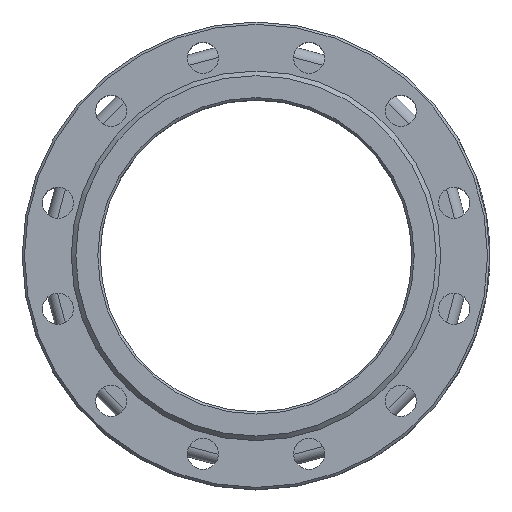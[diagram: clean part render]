
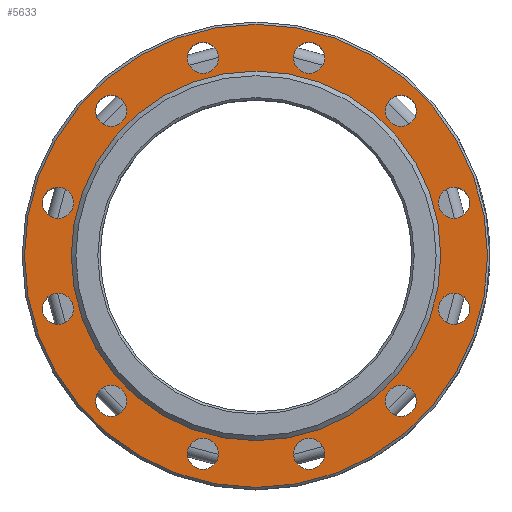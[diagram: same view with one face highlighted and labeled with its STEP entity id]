
A CAD part, top view. The second image highlights one B-rep face of the part: STEP entity #5633.
In plain terms, the highlighted planar face has unit normal (0, 0, 1).
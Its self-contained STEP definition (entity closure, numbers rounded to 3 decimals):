
#158=FACE_BOUND('',#1014,.T.);
#159=FACE_BOUND('',#1015,.T.);
#160=FACE_BOUND('',#1016,.T.);
#161=FACE_BOUND('',#1017,.T.);
#162=FACE_BOUND('',#1018,.T.);
#163=FACE_BOUND('',#1019,.T.);
#164=FACE_BOUND('',#1020,.T.);
#165=FACE_BOUND('',#1021,.T.);
#166=FACE_BOUND('',#1022,.T.);
#167=FACE_BOUND('',#1023,.T.);
#168=FACE_BOUND('',#1024,.T.);
#169=FACE_BOUND('',#1025,.T.);
#170=FACE_BOUND('',#1026,.T.);
#421=PLANE('',#6048);
#675=FACE_OUTER_BOUND('',#1013,.T.);
#1013=EDGE_LOOP('',(#4749));
#1014=EDGE_LOOP('',(#4750));
#1015=EDGE_LOOP('',(#4751));
#1016=EDGE_LOOP('',(#4752));
#1017=EDGE_LOOP('',(#4753));
#1018=EDGE_LOOP('',(#4754));
#1019=EDGE_LOOP('',(#4755));
#1020=EDGE_LOOP('',(#4756));
#1021=EDGE_LOOP('',(#4757));
#1022=EDGE_LOOP('',(#4758));
#1023=EDGE_LOOP('',(#4759));
#1024=EDGE_LOOP('',(#4760));
#1025=EDGE_LOOP('',(#4761));
#1026=EDGE_LOOP('',(#4762));
#1469=CIRCLE('',#6047,200.5);
#1470=CIRCLE('',#6049,13.5);
#1471=CIRCLE('',#6050,13.5);
#1472=CIRCLE('',#6051,13.5);
#1473=CIRCLE('',#6052,160.);
#1474=CIRCLE('',#6053,13.5);
#1475=CIRCLE('',#6054,13.5);
#1476=CIRCLE('',#6055,13.5);
#1477=CIRCLE('',#6056,13.5);
#1478=CIRCLE('',#6057,13.5);
#1479=CIRCLE('',#6058,13.5);
#1480=CIRCLE('',#6059,13.5);
#1481=CIRCLE('',#6060,13.5);
#1482=CIRCLE('',#6061,13.5);
#2637=VERTEX_POINT('',#12205);
#2638=VERTEX_POINT('',#12209);
#2639=VERTEX_POINT('',#12211);
#2640=VERTEX_POINT('',#12213);
#2641=VERTEX_POINT('',#12215);
#2642=VERTEX_POINT('',#12217);
#2643=VERTEX_POINT('',#12219);
#2644=VERTEX_POINT('',#12221);
#2645=VERTEX_POINT('',#12223);
#2646=VERTEX_POINT('',#12225);
#2647=VERTEX_POINT('',#12227);
#2648=VERTEX_POINT('',#12229);
#2649=VERTEX_POINT('',#12231);
#2650=VERTEX_POINT('',#12233);
#3355=EDGE_CURVE('',#2637,#2637,#1469,.T.);
#3356=EDGE_CURVE('',#2638,#2638,#1470,.T.);
#3357=EDGE_CURVE('',#2639,#2639,#1471,.T.);
#3358=EDGE_CURVE('',#2640,#2640,#1472,.T.);
#3359=EDGE_CURVE('',#2641,#2641,#1473,.T.);
#3360=EDGE_CURVE('',#2642,#2642,#1474,.T.);
#3361=EDGE_CURVE('',#2643,#2643,#1475,.T.);
#3362=EDGE_CURVE('',#2644,#2644,#1476,.T.);
#3363=EDGE_CURVE('',#2645,#2645,#1477,.T.);
#3364=EDGE_CURVE('',#2646,#2646,#1478,.T.);
#3365=EDGE_CURVE('',#2647,#2647,#1479,.T.);
#3366=EDGE_CURVE('',#2648,#2648,#1480,.T.);
#3367=EDGE_CURVE('',#2649,#2649,#1481,.T.);
#3368=EDGE_CURVE('',#2650,#2650,#1482,.T.);
#4749=ORIENTED_EDGE('',*,*,#3355,.T.);
#4750=ORIENTED_EDGE('',*,*,#3356,.T.);
#4751=ORIENTED_EDGE('',*,*,#3357,.T.);
#4752=ORIENTED_EDGE('',*,*,#3358,.T.);
#4753=ORIENTED_EDGE('',*,*,#3359,.T.);
#4754=ORIENTED_EDGE('',*,*,#3360,.T.);
#4755=ORIENTED_EDGE('',*,*,#3361,.T.);
#4756=ORIENTED_EDGE('',*,*,#3362,.T.);
#4757=ORIENTED_EDGE('',*,*,#3363,.T.);
#4758=ORIENTED_EDGE('',*,*,#3364,.T.);
#4759=ORIENTED_EDGE('',*,*,#3365,.T.);
#4760=ORIENTED_EDGE('',*,*,#3366,.T.);
#4761=ORIENTED_EDGE('',*,*,#3367,.T.);
#4762=ORIENTED_EDGE('',*,*,#3368,.T.);
#5633=ADVANCED_FACE('',(#675,#158,#159,#160,#161,#162,#163,#164,#165,#166,
#167,#168,#169,#170),#421,.F.);
#6047=AXIS2_PLACEMENT_3D('',#12207,#7163,#7164);
#6048=AXIS2_PLACEMENT_3D('',#12208,#7165,#7166);
#6049=AXIS2_PLACEMENT_3D('',#12210,#7167,#7168);
#6050=AXIS2_PLACEMENT_3D('',#12212,#7169,#7170);
#6051=AXIS2_PLACEMENT_3D('',#12214,#7171,#7172);
#6052=AXIS2_PLACEMENT_3D('',#12216,#7173,#7174);
#6053=AXIS2_PLACEMENT_3D('',#12218,#7175,#7176);
#6054=AXIS2_PLACEMENT_3D('',#12220,#7177,#7178);
#6055=AXIS2_PLACEMENT_3D('',#12222,#7179,#7180);
#6056=AXIS2_PLACEMENT_3D('',#12224,#7181,#7182);
#6057=AXIS2_PLACEMENT_3D('',#12226,#7183,#7184);
#6058=AXIS2_PLACEMENT_3D('',#12228,#7185,#7186);
#6059=AXIS2_PLACEMENT_3D('',#12230,#7187,#7188);
#6060=AXIS2_PLACEMENT_3D('',#12232,#7189,#7190);
#6061=AXIS2_PLACEMENT_3D('',#12234,#7191,#7192);
#7163=DIRECTION('center_axis',(0.,0.,1.));
#7164=DIRECTION('ref_axis',(0.,1.,0.));
#7165=DIRECTION('center_axis',(0.,0.,-1.));
#7166=DIRECTION('ref_axis',(-1.,0.,0.));
#7167=DIRECTION('center_axis',(0.,0.,-1.));
#7168=DIRECTION('ref_axis',(-1.,0.,0.));
#7169=DIRECTION('center_axis',(0.,0.,-1.));
#7170=DIRECTION('ref_axis',(-1.,0.,0.));
#7171=DIRECTION('center_axis',(0.,0.,-1.));
#7172=DIRECTION('ref_axis',(-1.,0.,0.));
#7173=DIRECTION('center_axis',(0.,0.,-1.));
#7174=DIRECTION('ref_axis',(1.,0.,0.));
#7175=DIRECTION('center_axis',(0.,0.,-1.));
#7176=DIRECTION('ref_axis',(-1.,0.,0.));
#7177=DIRECTION('center_axis',(0.,0.,-1.));
#7178=DIRECTION('ref_axis',(-1.,0.,0.));
#7179=DIRECTION('center_axis',(0.,0.,-1.));
#7180=DIRECTION('ref_axis',(-1.,0.,0.));
#7181=DIRECTION('center_axis',(0.,0.,-1.));
#7182=DIRECTION('ref_axis',(-1.,0.,0.));
#7183=DIRECTION('center_axis',(0.,0.,-1.));
#7184=DIRECTION('ref_axis',(-1.,0.,0.));
#7185=DIRECTION('center_axis',(0.,0.,-1.));
#7186=DIRECTION('ref_axis',(-1.,0.,0.));
#7187=DIRECTION('center_axis',(0.,0.,-1.));
#7188=DIRECTION('ref_axis',(-1.,0.,0.));
#7189=DIRECTION('center_axis',(0.,0.,-1.));
#7190=DIRECTION('ref_axis',(-1.,0.,0.));
#7191=DIRECTION('center_axis',(0.,0.,-1.));
#7192=DIRECTION('ref_axis',(-1.,0.,0.));
#12205=CARTESIAN_POINT('',(0.,-200.5,71.));
#12207=CARTESIAN_POINT('Origin',(0.,0.,71.));
#12208=CARTESIAN_POINT('Origin',(0.,0.,71.));
#12209=CARTESIAN_POINT('',(59.44,171.452,71.));
#12210=CARTESIAN_POINT('Origin',(45.94,171.452,71.));
#12211=CARTESIAN_POINT('',(-32.44,171.452,71.));
#12212=CARTESIAN_POINT('Origin',(-45.94,171.452,71.));
#12213=CARTESIAN_POINT('',(-112.011,125.511,71.));
#12214=CARTESIAN_POINT('Origin',(-125.511,125.511,71.));
#12215=CARTESIAN_POINT('',(-160.,0.,71.));
#12216=CARTESIAN_POINT('Origin',(0.,0.,71.));
#12217=CARTESIAN_POINT('',(-157.952,45.94,71.));
#12218=CARTESIAN_POINT('Origin',(-171.452,45.94,71.));
#12219=CARTESIAN_POINT('',(184.952,-45.94,71.));
#12220=CARTESIAN_POINT('Origin',(171.452,-45.94,71.));
#12221=CARTESIAN_POINT('',(184.952,45.94,71.));
#12222=CARTESIAN_POINT('Origin',(171.452,45.94,71.));
#12223=CARTESIAN_POINT('',(-32.44,-171.452,71.));
#12224=CARTESIAN_POINT('Origin',(-45.94,-171.452,71.));
#12225=CARTESIAN_POINT('',(-157.952,-45.94,71.));
#12226=CARTESIAN_POINT('Origin',(-171.452,-45.94,71.));
#12227=CARTESIAN_POINT('',(139.011,-125.511,71.));
#12228=CARTESIAN_POINT('Origin',(125.511,-125.511,71.));
#12229=CARTESIAN_POINT('',(139.011,125.511,71.));
#12230=CARTESIAN_POINT('Origin',(125.511,125.511,71.));
#12231=CARTESIAN_POINT('',(59.44,-171.452,71.));
#12232=CARTESIAN_POINT('Origin',(45.94,-171.452,71.));
#12233=CARTESIAN_POINT('',(-112.011,-125.511,71.));
#12234=CARTESIAN_POINT('Origin',(-125.511,-125.511,71.));
